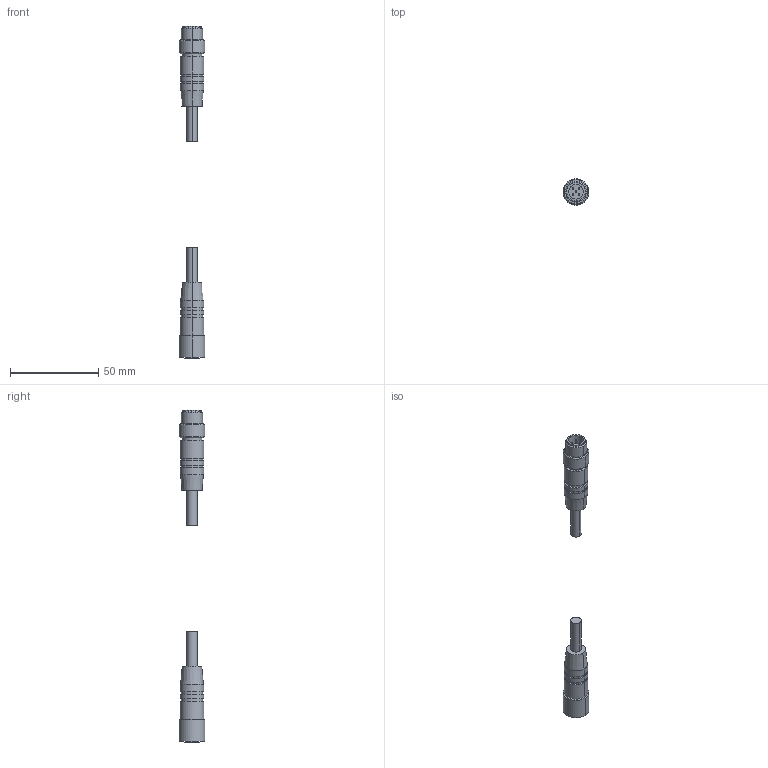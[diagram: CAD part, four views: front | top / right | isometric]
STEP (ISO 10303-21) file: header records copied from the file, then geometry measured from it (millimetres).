
FILE_DESCRIPTION((''),'2;1');
FILE_NAME('8946054702_ASM','2024-01-22T14:01:07',('THD3HC'),(''),'CREO PARAMETRIC BY PTC INC, 2020044','CREO PARAMETRIC BY PTC INC, 2020044','');
FILE_SCHEMA(('CONFIG_CONTROL_DESIGN','SHAPE_APPEARANCE_LAYERS_GROUPS'));
Length unit declared in the file: millimetre
Products named in the file (3): 8946054702-A; 8946054702-B; 8946054702_ASM
Assembly tree (2 placements, depth 2):
  8946054702_ASM
    8946054702-A
    8946054702-B
Bounding box: 14.6 x 14.6 x 188.5 mm (x, y, z)
Volume: 12268.4 mm3; surface area: 6345.8 mm2
Topology: 2 solids, 2 shells, 109 faces, 214 edges, 140 vertices
Faces by surface type: cylinder 62, plane 35, cone 12
Entity records: 4691 total; most frequent: DIRECTION 582, CARTESIAN_POINT 468, ORIENTED_EDGE 428, PRESENTATION_STYLE_ASSIGNMENT 322, STYLED_ITEM 260, AXIS2_PLACEMENT_3D 254, CURVE_STYLE 214, EDGE_CURVE 214
